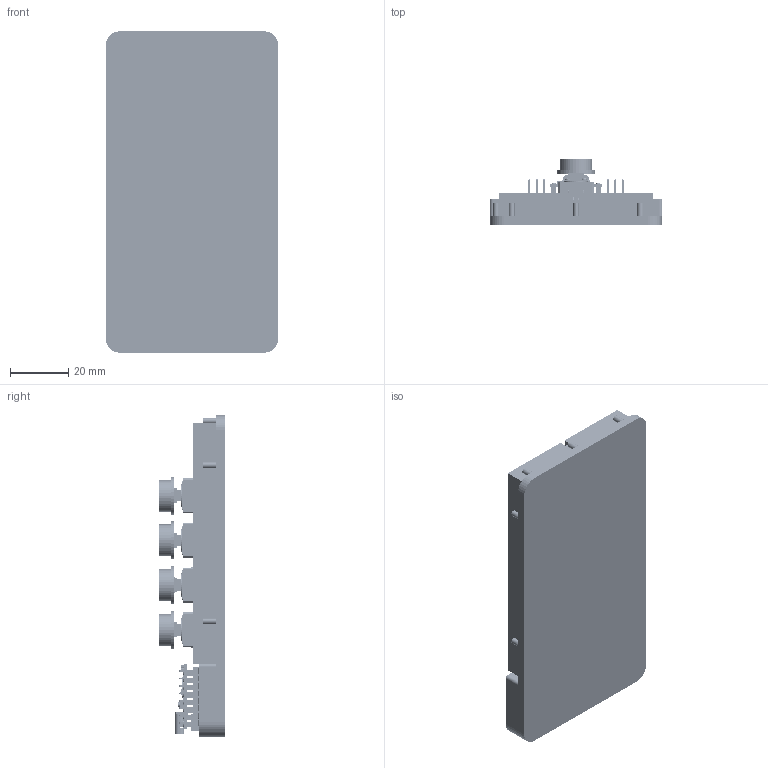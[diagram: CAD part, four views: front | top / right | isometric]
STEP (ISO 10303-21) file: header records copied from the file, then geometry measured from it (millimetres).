
FILE_DESCRIPTION(/* description */ ('','CAx-IF Rec.Pracs.---Representation and Presentation of Product Manufacturing Information (PMI)---4.0---2014-10-13'),/* implementation_level */ '2;1');
FILE_NAME(/* name */ 'esp32_c3_smini.stp',/* time_stamp */ '2026-06-02T19:37:17+02:00',/* author */ ('R5800u'),/* organization */ (''),/* preprocessor_version */ 'ST-DEVELOPER v20',/* originating_system */ 'Autodesk Inventor 2025',/* authorisation */ '');
FILE_SCHEMA (('AP242_MANAGED_MODEL_BASED_3D_ENGINEERING_MIM_LF { 1 0 10303 442 1 1 4 }'));
Products named in the file (114): Assieme28; Half-Size Breadboard; Main Half-Size Board; Half-Size Side Rail; ESP32-C3 Super Mini breakout expansion board module -Assembly; pcb; JST - PH - SMD (R) - 2Pin - 2.00mm; pinheaderyellow; COMPOUND; COMPOUND_1; COMPOUND_2; COMPOUND_3; COMPOUND_4; COMPOUND_5; COMPOUND_6; COMPOUND_7; COMPOUND_8; COMPOUND_9; COMPOUND_10; COMPOUND_11; COMPOUND_12; COMPOUND_13; COMPOUND_14; COMPOUND_15; COMPOUND_16; COMPOUND_17; pinheader8Red; COMPOUND_18; COMPOUND_19; COMPOUND_20; COMPOUND_21; COMPOUND_22; COMPOUND_23; COMPOUND_24; COMPOUND_25; COMPOUND_26; COMPOUND_27; COMPOUND_28; COMPOUND_29; COMPOUND_30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
Assembly tree (163 placements, depth 6):
  Assieme28
    Half-Size Breadboard
      Main Half-Size Board
      Half-Size Side Rail  x2
    ESP32-C3 Super Mini breakout expansion board module -Assembly
      pcb
      pinheaderyellow  x2
        COMPOUND
          COMPOUND_1
          COMPOUND_2
          COMPOUND_3
          COMPOUND_4
          COMPOUND_5
          COMPOUND_6
          COMPOUND_7
          COMPOUND_8
        COMPOUND_9
          COMPOUND_10
          COMPOUND_11
          COMPOUND_12
          COMPOUND_13
          COMPOUND_14
          COMPOUND_15
          COMPOUND_16
          COMPOUND_17
      pinheader8Red  x2
        COMPOUND_18
          COMPOUND_19
          COMPOUND_20
          COMPOUND_21
          COMPOUND_22
          COMPOUND_23
          COMPOUND_24
          COMPOUND_25
          COMPOUND_26
        COMPOUND_27
          COMPOUND_28
          COMPOUND_29
          COMPOUND_30
          COMPOUND_31
          COMPOUND_32
          COMPOUND_33
          COMPOUND_34
          COMPOUND_35
      pinheader8Black  x2
        COMPOUND_36
          COMPOUND_37
          COMPOUND_38
          COMPOUND_39
          COMPOUND_40
          COMPOUND_41
          COMPOUND_42
          COMPOUND_43
          COMPOUND_44
        COMPOUND_45
          COMPOUND_46
          COMPOUND_47
          COMPOUND_48
          COMPOUND_49
          COMPOUND_50
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Bounding box: 59.09 x 22.6 x 110 mm (x, y, z)
Volume: 62255.1 mm3; surface area: 51320.8 mm2
Topology: 396 solids, 464 shells, 13320 faces, 34159 edges, 22426 vertices
Faces by surface type: plane 9669, bspline 2637, cylinder 916, sphere 50, torus 24, cone 24
Full cylindrical faces by diameter (mm): 0.25 x1, 0.269 x1, 0.3 x1, 0.5 x16, 0.6 x2, 0.7 x64, 0.859 x48, 1.665 x32, 1.8 x2, 2 x4, 2.1 x2, 8 x4, 11 x4, 13 x4
Entity records: 287087 total; most frequent: CARTESIAN_POINT 76323, ORIENTED_EDGE 43008, DIRECTION 37717, EDGE_CURVE 21588, LINE 17361, VECTOR 17361, VERTEX_POINT 14377, AXIS2_PLACEMENT_3D 10178
